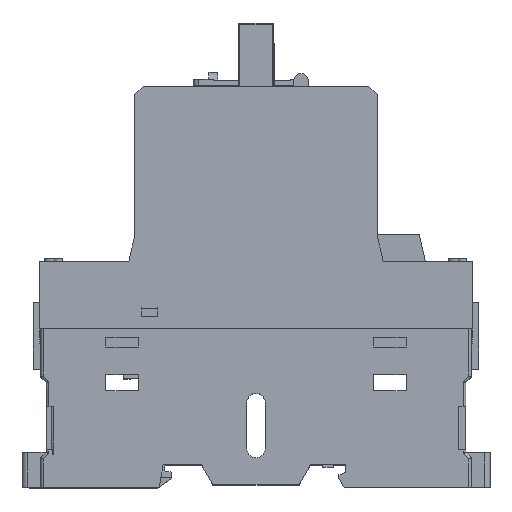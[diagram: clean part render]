
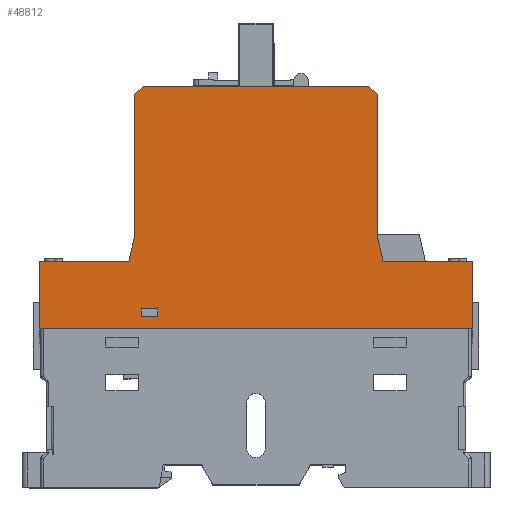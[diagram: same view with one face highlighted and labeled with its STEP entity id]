
A CAD part, top view. The second image highlights one B-rep face of the part: STEP entity #48812.
In plain terms, the highlighted planar face has unit normal (0, 0, 1).
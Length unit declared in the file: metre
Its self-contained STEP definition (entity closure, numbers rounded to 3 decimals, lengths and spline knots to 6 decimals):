
#41626=CARTESIAN_POINT('',(0.037305,0.010786,0.049028));
#41627=VERTEX_POINT('',#41626);
#41630=CARTESIAN_POINT('',(0.037305,0.010786,0.049028));
#41631=DIRECTION('',(-0.224,-0.975,0.));
#41632=VECTOR('',#41631,1.);
#41633=LINE('',#41630,#41632);
#41634=CARTESIAN_POINT('',(0.038455,0.015786,0.049028));
#41635=VERTEX_POINT('',#41634);
#41636=EDGE_CURVE('',#41635,#41627,#41633,.T.);
#41660=CARTESIAN_POINT('',(0.038455,0.043286,0.049028));
#41661=DIRECTION('',(0.,-1.,0.));
#41662=VECTOR('',#41661,1.);
#41663=LINE('',#41660,#41662);
#41664=CARTESIAN_POINT('',(0.038455,0.041786,0.049028));
#41665=VERTEX_POINT('',#41664);
#41666=EDGE_CURVE('',#41665,#41635,#41663,.T.);
#41699=CARTESIAN_POINT('',(0.038455,0.041786,0.049028));
#41700=DIRECTION('',(0.707,0.707,0.));
#41701=VECTOR('',#41700,1.);
#41702=LINE('',#41699,#41701);
#41703=CARTESIAN_POINT('',(0.039955,0.043286,0.049028));
#41704=VERTEX_POINT('',#41703);
#41705=EDGE_CURVE('',#41665,#41704,#41702,.T.);
#44105=CARTESIAN_POINT('',(0.101155,-0.001714,0.049028));
#44106=VERTEX_POINT('',#44105);
#44109=CARTESIAN_POINT('',(0.020955,-0.001714,0.049028));
#44110=DIRECTION('',(1.,0.,0.));
#44111=VECTOR('',#44110,1.);
#44112=LINE('',#44109,#44111);
#44113=CARTESIAN_POINT('',(0.020755,-0.001714,0.049028));
#44114=VERTEX_POINT('',#44113);
#44115=EDGE_CURVE('',#44114,#44106,#44112,.T.);
#45078=CARTESIAN_POINT('',(0.020755,-0.001714,0.049028));
#45079=DIRECTION('',(0.,1.,0.));
#45080=VECTOR('',#45079,1.);
#45081=LINE('',#45078,#45080);
#45082=CARTESIAN_POINT('',(0.020755,0.010786,0.049028));
#45083=VERTEX_POINT('',#45082);
#45084=EDGE_CURVE('',#44114,#45083,#45081,.T.);
#46382=CARTESIAN_POINT('',(0.101155,0.010786,0.049028));
#46383=VERTEX_POINT('',#46382);
#46386=CARTESIAN_POINT('',(0.101155,0.010786,0.049028));
#46387=DIRECTION('',(0.,-1.,0.));
#46388=VECTOR('',#46387,1.);
#46389=LINE('',#46386,#46388);
#46390=EDGE_CURVE('',#46383,#44106,#46389,.T.);
#48553=CARTESIAN_POINT('',(0.084605,0.010786,0.049028));
#48554=VERTEX_POINT('',#48553);
#48557=CARTESIAN_POINT('',(0.084605,0.010786,0.049028));
#48558=DIRECTION('',(-1.,0.,0.));
#48559=VECTOR('',#48558,1.);
#48560=LINE('',#48557,#48559);
#48561=EDGE_CURVE('',#46383,#48554,#48560,.T.);
#48679=CARTESIAN_POINT('',(0.083455,0.015786,0.049028));
#48680=VERTEX_POINT('',#48679);
#48683=CARTESIAN_POINT('',(0.084605,0.010786,0.049028));
#48684=DIRECTION('',(-0.224,0.975,0.));
#48685=VECTOR('',#48684,1.);
#48686=LINE('',#48683,#48685);
#48687=EDGE_CURVE('',#48554,#48680,#48686,.T.);
#48706=CARTESIAN_POINT('',(0.081955,0.043286,0.049028));
#48707=DIRECTION('',(0.707,-0.707,0.));
#48708=VECTOR('',#48707,1.);
#48709=LINE('',#48706,#48708);
#48710=CARTESIAN_POINT('',(0.081955,0.043286,0.049028));
#48711=VERTEX_POINT('',#48710);
#48712=CARTESIAN_POINT('',(0.083455,0.041786,0.049028));
#48713=VERTEX_POINT('',#48712);
#48714=EDGE_CURVE('',#48711,#48713,#48709,.T.);
#48761=CARTESIAN_POINT('',(0.083455,0.043286,0.049028));
#48762=DIRECTION('',(0.,1.,0.));
#48763=VECTOR('',#48762,1.);
#48764=LINE('',#48761,#48763);
#48765=EDGE_CURVE('',#48680,#48713,#48764,.T.);
#48783=CARTESIAN_POINT('',(0.020955,0.010786,0.049028));
#48784=DIRECTION('',(0.,0.,-1.));
#48785=DIRECTION('',(-1.,0.,0.));
#48786=AXIS2_PLACEMENT_3D('',#48783,#48784,#48785);
#48787=PLANE('',#48786);
#48788=ORIENTED_EDGE('',*,*,#48765,.T.);
#48789=ORIENTED_EDGE('',*,*,#48714,.F.);
#48790=CARTESIAN_POINT('',(0.038455,0.043286,0.049028));
#48791=DIRECTION('',(-1.,0.,0.));
#48792=VECTOR('',#48791,1.);
#48793=LINE('',#48790,#48792);
#48794=EDGE_CURVE('',#48711,#41704,#48793,.T.);
#48795=ORIENTED_EDGE('',*,*,#48794,.T.);
#48796=ORIENTED_EDGE('',*,*,#41705,.F.);
#48797=ORIENTED_EDGE('',*,*,#41666,.T.);
#48798=ORIENTED_EDGE('',*,*,#41636,.T.);
#48799=CARTESIAN_POINT('',(0.020955,0.010786,0.049028));
#48800=DIRECTION('',(-1.,0.,0.));
#48801=VECTOR('',#48800,1.);
#48802=LINE('',#48799,#48801);
#48803=EDGE_CURVE('',#41627,#45083,#48802,.T.);
#48804=ORIENTED_EDGE('',*,*,#48803,.T.);
#48805=ORIENTED_EDGE('',*,*,#45084,.F.);
#48806=ORIENTED_EDGE('',*,*,#44115,.T.);
#48807=ORIENTED_EDGE('',*,*,#46390,.F.);
#48808=ORIENTED_EDGE('',*,*,#48561,.T.);
#48809=ORIENTED_EDGE('',*,*,#48687,.T.);
#48810=EDGE_LOOP('',(#48788,#48789,#48795,#48796,#48797,#48798,#48804,#48805,#48806,#48807,#48808,#48809));
#48811=FACE_BOUND('',#48810,.T.);
#48812=ADVANCED_FACE('',(#48811),#48787,.F.);
